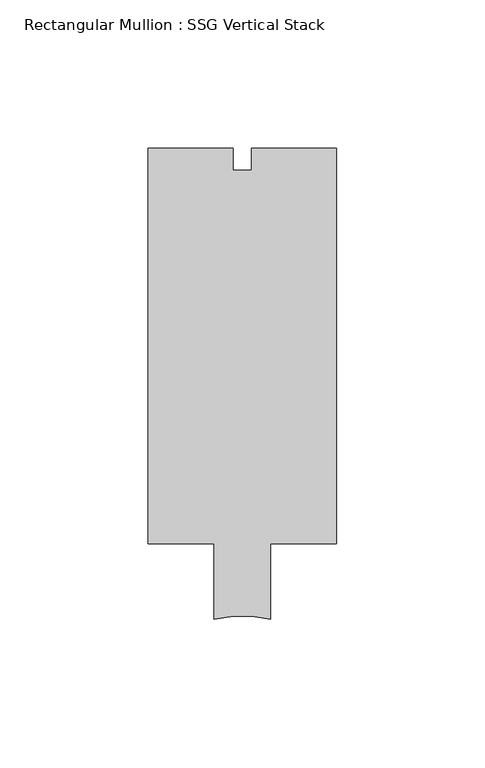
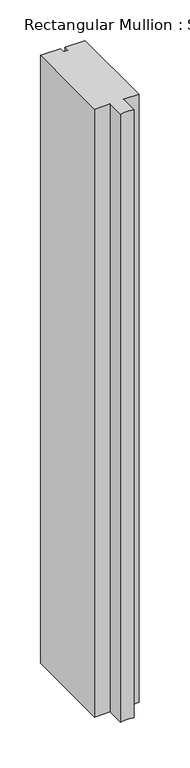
"""IFC4 building model written with IfcOpenShell, lengths in millimetres: member geometry, Rectangular Mullion : SSG Vertical Stack."""

from ifc_helpers import new_model, si_unit, point, frame, frame_2d, origin, place, context, project, spatial, polyline, circle_curve, trimmed, segment, composite_curve, outline, extrude, source, transform, mapped, element, save


def rectangular_mullion_ssg_vertical_stack_41dd6339(model_context):
    return source(origin(), model_context, "Body", "SweptSolid", [
        extrude(outline(composite_curve([segment(polyline([(-3.175, 114.3), (-3.175, 106.9085472), (3.175, 106.9085472), (3.175, 114.3), (31.7705663, 114.3), (31.7705663, -18.933673), (9.534694, -18.933673), (9.534694, -44.4572901)]), True, "CONTINUOUS"), segment(trimmed(circle_curve(frame_2d((-2e-07, -81.9595205)), 38.6953185), [point((9.534694, -44.4572901))], [point((-9.5153094, -44.4523669))], True, "CARTESIAN"), True, "CONTINUOUS"), segment(polyline([(-9.5153094, -44.4523669), (-9.5153094, -18.9488461), (-31.75, -18.9488461), (-31.75, 114.3), (-3.175, 114.3)]), True, "CONTINUOUS")], self_intersect=False)), frame((0.0, 0.0, -914.4), z_axis=(0.0, 0.0, 1.0), x_axis=(1.0, 0.0, 0.0)), (0.0, 0.0, 1.0), 914.4),
    ])


if __name__ == "__main__":
    model = new_model("IFC4")
    model_context = context("Model", 3, world=origin())
    ifc_project = project(units=[si_unit("LENGTHUNIT", "METRE", prefix="MILLI")], contexts=[model_context])
    site = spatial("IfcSite", under=ifc_project)
    building = spatial("IfcBuilding", under=site)
    placement = place(None, origin())
    rectangular_mullion_ssg_vertical_stack_shape = rectangular_mullion_ssg_vertical_stack_41dd6339(model_context)
    element("IfcMember", 1, ObjectType="Rectangular Mullion : SSG Vertical Stack", at=placement, inside=building, context=model_context, shape_type="MappedRepresentation", body=[
        mapped(rectangular_mullion_ssg_vertical_stack_shape, transform((0.0, 0.0, 0.0), x_axis=(1.0, 0.0, 0.0), y_axis=(0.0, 1.0, 0.0), z_axis=(0.0, 0.0, 1.0))),
    ])
    save(model, "model.ifc")
